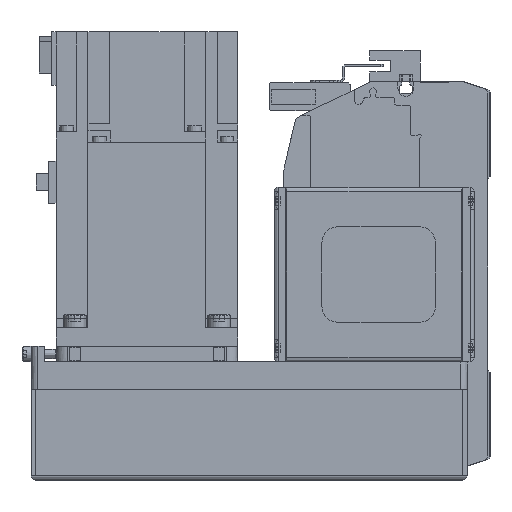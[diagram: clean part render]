
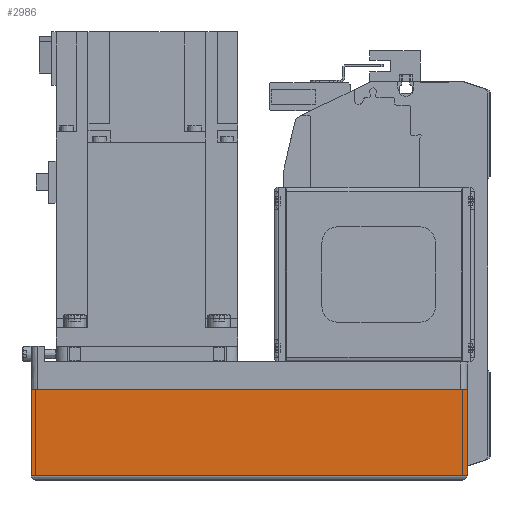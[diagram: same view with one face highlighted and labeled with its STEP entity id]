
A CAD part, left-side view. The second image highlights one B-rep face of the part: STEP entity #2986.
In plain terms, the highlighted planar face has unit normal (-1, 0, 0) as drawn and (0, -1, 0) by its records, which use the part's own axes.
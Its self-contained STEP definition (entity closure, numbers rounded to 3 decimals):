
#2986 = ADVANCED_FACE( '', ( #6459 ), #6460, .T. );
#6459 = FACE_OUTER_BOUND( '', #10387, .T. );
#6460 = PLANE( '', #10388 );
#10387 = EDGE_LOOP( '', ( #18834, #18835, #18836, #18837 ) );
#10388 = AXIS2_PLACEMENT_3D( '', #18838, #18839, #18840 );
#18834 = ORIENTED_EDGE( '', *, *, #24921, .F. );
#18835 = ORIENTED_EDGE( '', *, *, #22001, .F. );
#18836 = ORIENTED_EDGE( '', *, *, #25173, .T. );
#18837 = ORIENTED_EDGE( '', *, *, #23991, .T. );
#18838 = CARTESIAN_POINT( '', ( -192., -40., -12.1 ) );
#18839 = DIRECTION( '', ( 0., -1., 0. ) );
#18840 = DIRECTION( '', ( 0., 0., -1. ) );
#22001 = EDGE_CURVE( '', #26108, #26109, #26110, .T. );
#23991 = EDGE_CURVE( '', #29379, #29383, #29385, .T. );
#24921 = EDGE_CURVE( '', #26109, #29383, #30666, .T. );
#25173 = EDGE_CURVE( '', #26108, #29379, #30987, .T. );
#26108 = VERTEX_POINT( '', #32348 );
#26109 = VERTEX_POINT( '', #32349 );
#26110 = LINE( '', #32350, #32351 );
#29379 = VERTEX_POINT( '', #37586 );
#29383 = VERTEX_POINT( '', #37591 );
#29385 = LINE( '', #37593, #37594 );
#30666 = LINE( '', #39775, #39776 );
#30987 = LINE( '', #40213, #40214 );
#32348 = CARTESIAN_POINT( '', ( -192., -40., -12.1 ) );
#32349 = CARTESIAN_POINT( '', ( 0., -40., -12.1 ) );
#32350 = CARTESIAN_POINT( '', ( -192., -40., -12.1 ) );
#32351 = VECTOR( '', #41326, 1000. );
#37586 = CARTESIAN_POINT( '', ( -192., -40., -50. ) );
#37591 = CARTESIAN_POINT( '', ( 0., -40., -50. ) );
#37593 = CARTESIAN_POINT( '', ( -192., -40., -50. ) );
#37594 = VECTOR( '', #43829, 1000. );
#39775 = CARTESIAN_POINT( '', ( 0., -40., -12.1 ) );
#39776 = VECTOR( '', #44884, 1000. );
#40213 = CARTESIAN_POINT( '', ( -192., -40., -12.1 ) );
#40214 = VECTOR( '', #45182, 1000. );
#41326 = DIRECTION( '', ( 1., 0., 0. ) );
#43829 = DIRECTION( '', ( 1., 0., 0. ) );
#44884 = DIRECTION( '', ( 0., 0., -1. ) );
#45182 = DIRECTION( '', ( 0., 0., -1. ) );
